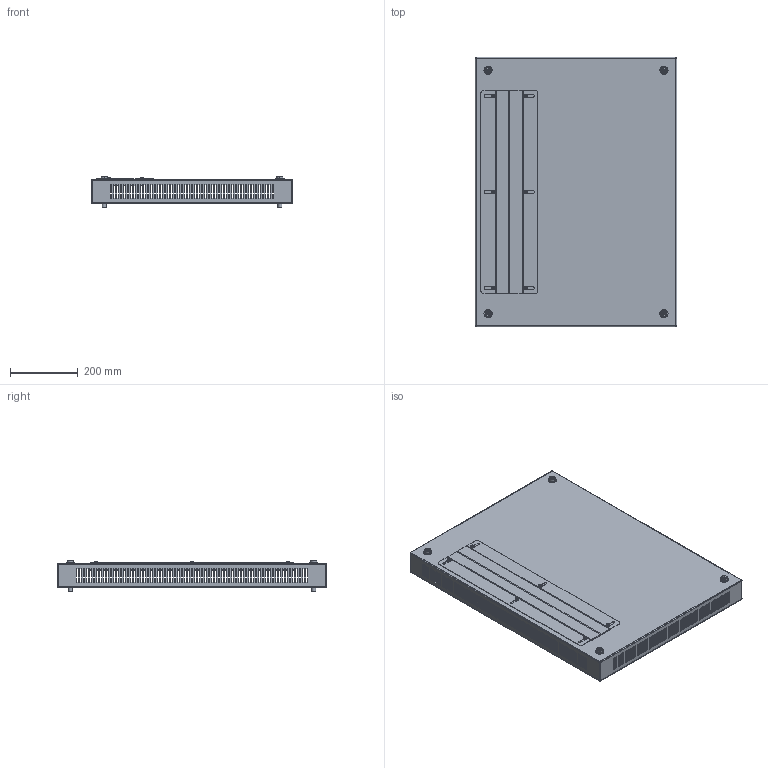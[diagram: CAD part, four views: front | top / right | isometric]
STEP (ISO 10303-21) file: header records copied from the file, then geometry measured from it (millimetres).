
FILE_DESCRIPTION(('STEP AP203'), '1');
FILE_NAME('3320 ÑÁ Ïîòîëî÷íàÿ ïàíåëü', '', ('UNSPECIFIED'), ('UNSPECIFIED'), 'C3D Converter', 'C3D Toolkit', '');
FILE_SCHEMA(('CONFIG_CONTROL_DESIGN'));
Length unit declared in the file: millimetre
Products named in the file (10): 3320.80.60.Э СБ; 3321; 2329; 2322
Assembly tree (39 placements, depth 2):
  3320.80.60.Э СБ
    3321
    2329  x4
    (unnamed)  x4
    (unnamed)  x4
    (unnamed)  x6
    (unnamed)  x6
    (unnamed)  x6
    (unnamed)  x6
    2322  x2
Bounding box: 597 x 797 x 93.5 mm (x, y, z)
Volume: 2067432.6 mm3; surface area: 1564459.9 mm2
Topology: 41 solids, 41 shells, 1878 faces, 5170 edges, 3416 vertices
Faces by surface type: plane 1396, cylinder 234, bspline 180, cone 26, sphere 22, torus 20
Full cylindrical faces by diameter (mm): 4.134 x6, 5 x6, 5.5 x6, 5.8 x6, 6 x4, 8.8 x6, 9.5 x6, 10 x6, 10.106 x4, 12 x8, 13.5 x4, 16 x4, 18 x4, 24 x4
Entity records: 47279 total; most frequent: CARTESIAN_POINT 13024, ORIENTED_EDGE 6916, DIRECTION 6086, EDGE_CURVE 3458, LINE 3222, VECTOR 3222, VERTEX_POINT 2294, EDGE_LOOP 1762
